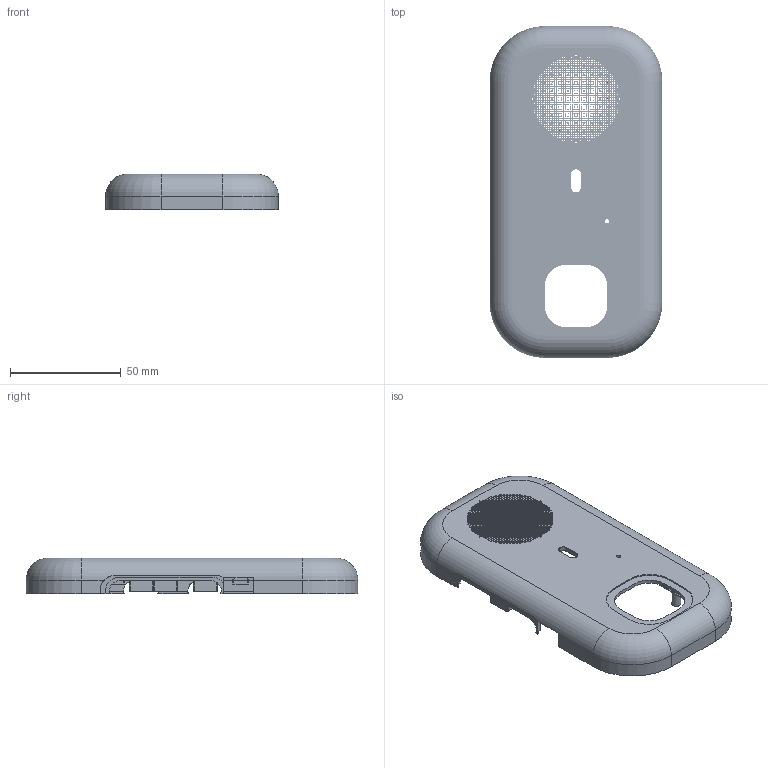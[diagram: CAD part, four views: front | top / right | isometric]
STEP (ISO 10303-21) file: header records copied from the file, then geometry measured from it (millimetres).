
FILE_DESCRIPTION(('Open CASCADE Model'),'2;1');
FILE_NAME('Open CASCADE Shape Model','2026-09-08T12:50:45',('Author'),( 'Open CASCADE'),'Open CASCADE STEP processor 7.7','Open CASCADE 7.7' ,'Unknown');
FILE_SCHEMA(('AUTOMOTIVE_DESIGN { 1 0 10303 214 1 1 1 1 }'));
Length unit declared in the file: millimetre
Products named in the file (1): Open CASCADE STEP translator 7.7 1
Bounding box: 78 x 150 x 16.25 mm (x, y, z)
Volume: 31693.5 mm3; surface area: 38414.4 mm2
Topology: 1 solids, 3 shells, 1745 faces, 5105 edges, 3387 vertices
Faces by surface type: bspline 1131, plane 326, cylinder 268, torus 19, sphere 1
Full cylindrical faces by diameter (mm): 0.884 x1, 1.7 x6, 1.8 x1, 2.1 x4, 3 x4, 4.2 x10
Entity records: 200198 total; most frequent: CARTESIAN_POINT 108551, DIRECTION 13221, ORIENTED_EDGE 10210, PCURVE 10210, DEFINITIONAL_REPRESENTATION 10210, EDGE_CURVE 5105, B_SPLINE_CURVE_WITH_KNOTS 4845, LINE 4812
